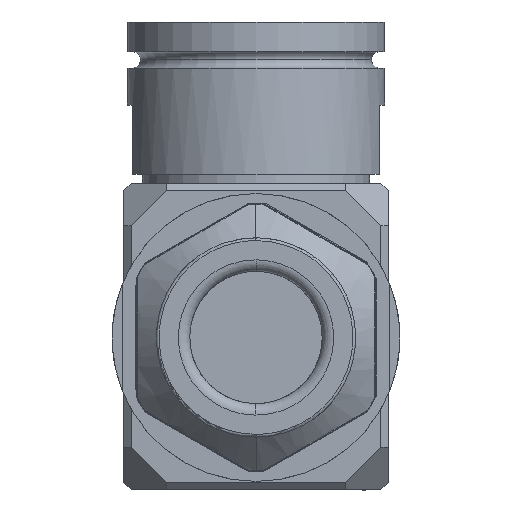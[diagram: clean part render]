
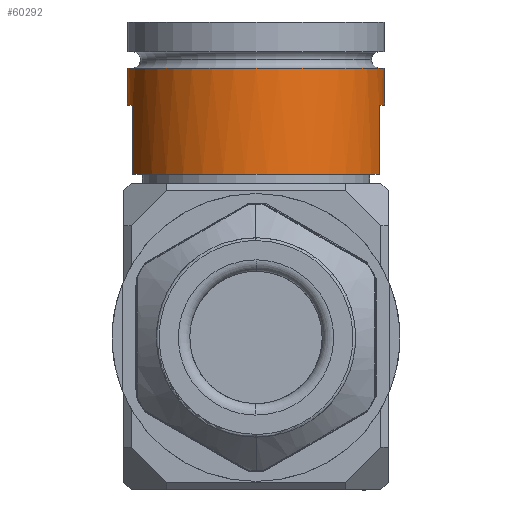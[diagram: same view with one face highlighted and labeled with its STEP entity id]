
A CAD part, front view. The second image highlights one B-rep face of the part: STEP entity #60292.
In plain terms, the highlighted cylindrical face has radius 17.691 mm (diameter 35.382 mm), a partial arc.
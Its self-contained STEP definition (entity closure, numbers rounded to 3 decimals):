
#1712 = EDGE_LOOP ( 'NONE', ( #43512, #16279, #62382, #34869, #41704, #60466, #18219, #65530 ) ) ;
#2400 = DIRECTION ( 'NONE',  ( 0., 0., -1. ) ) ;
#4203 = EDGE_CURVE ( 'NONE', #36306, #52486, #4255, .T. ) ;
#4255 = CIRCLE ( 'NONE', #55532, 17.691 ) ;
#4477 = EDGE_CURVE ( 'NONE', #43750, #52486, #10649, .T. ) ;
#4962 = DIRECTION ( 'NONE',  ( 0., 0., -1. ) ) ;
#8680 = DIRECTION ( 'NONE',  ( 1., 0., 0. ) ) ;
#9008 = DIRECTION ( 'NONE',  ( 0., 0., -1. ) ) ;
#10649 = LINE ( 'NONE', #26670, #28797 ) ;
#11644 = AXIS2_PLACEMENT_3D ( 'NONE', #29039, #48821, #8680 ) ;
#13103 = VECTOR ( 'NONE', #20476, 1000. ) ;
#13144 = CARTESIAN_POINT ( 'NONE',  ( -17.691, 0., -2.972 ) ) ;
#13699 = CYLINDRICAL_SURFACE ( 'NONE', #40318, 17.691 ) ;
#15450 = LINE ( 'NONE', #55629, #47369 ) ;
#15468 = DIRECTION ( 'NONE',  ( 0., 0., -1. ) ) ;
#16279 = ORIENTED_EDGE ( 'NONE', *, *, #4477, .T. ) ;
#16344 = DIRECTION ( 'NONE',  ( 0., 0., -1. ) ) ;
#17706 = EDGE_CURVE ( 'NONE', #39586, #53628, #56277, .T. ) ;
#17779 = CARTESIAN_POINT ( 'NONE',  ( 17.691, 0., -2.972 ) ) ;
#18219 = ORIENTED_EDGE ( 'NONE', *, *, #64023, .F. ) ;
#19155 = CARTESIAN_POINT ( 'NONE',  ( 16.993, -4.922, -2.972 ) ) ;
#20157 = CARTESIAN_POINT ( 'NONE',  ( 17.691, 0., 8.458 ) ) ;
#20464 = CARTESIAN_POINT ( 'NONE',  ( 17.691, 0., 2.108 ) ) ;
#20476 = DIRECTION ( 'NONE',  ( 0., 0., -1. ) ) ;
#21822 = CIRCLE ( 'NONE', #63504, 17.691 ) ;
#23754 = CARTESIAN_POINT ( 'NONE',  ( 0., 0., -2.972 ) ) ;
#24153 = LINE ( 'NONE', #19155, #30421 ) ;
#26201 = EDGE_CURVE ( 'NONE', #36306, #36825, #15450, .T. ) ;
#26670 = CARTESIAN_POINT ( 'NONE',  ( -17.691, 0., 8.458 ) ) ;
#28797 = VECTOR ( 'NONE', #16344, 1000. ) ;
#29039 = CARTESIAN_POINT ( 'NONE',  ( 0., 0., -2.972 ) ) ;
#29085 = EDGE_CURVE ( 'NONE', #39586, #43750, #21822, .T. ) ;
#29162 = CIRCLE ( 'NONE', #45251, 17.691 ) ;
#30421 = VECTOR ( 'NONE', #39518, 1000. ) ;
#33363 = CARTESIAN_POINT ( 'NONE',  ( 0., 0., -12.497 ) ) ;
#34869 = ORIENTED_EDGE ( 'NONE', *, *, #26201, .T. ) ;
#35369 = VERTEX_POINT ( 'NONE', #43703 ) ;
#36306 = VERTEX_POINT ( 'NONE', #53202 ) ;
#36811 = DIRECTION ( 'NONE',  ( 1., 0., 0. ) ) ;
#36825 = VERTEX_POINT ( 'NONE', #65609 ) ;
#39518 = DIRECTION ( 'NONE',  ( 0., 0., -1. ) ) ;
#39586 = VERTEX_POINT ( 'NONE', #20464 ) ;
#40318 = AXIS2_PLACEMENT_3D ( 'NONE', #64546, #9008, #58539 ) ;
#40858 = EDGE_CURVE ( 'NONE', #59834, #36825, #29162, .T. ) ;
#41704 = ORIENTED_EDGE ( 'NONE', *, *, #40858, .F. ) ;
#43512 = ORIENTED_EDGE ( 'NONE', *, *, #29085, .T. ) ;
#43703 = CARTESIAN_POINT ( 'NONE',  ( 16.993, -4.922, -2.972 ) ) ;
#43750 = VERTEX_POINT ( 'NONE', #61627 ) ;
#44121 = FACE_OUTER_BOUND ( 'NONE', #1712, .T. ) ;
#45251 = AXIS2_PLACEMENT_3D ( 'NONE', #33363, #4962, #60483 ) ;
#46550 = CARTESIAN_POINT ( 'NONE',  ( 0., 0., 2.108 ) ) ;
#47369 = VECTOR ( 'NONE', #65983, 1000. ) ;
#48521 = DIRECTION ( 'NONE',  ( -1., 0., 0. ) ) ;
#48821 = DIRECTION ( 'NONE',  ( 0., 0., -1. ) ) ;
#51657 = EDGE_CURVE ( 'NONE', #35369, #59834, #24153, .T. ) ;
#51786 = CARTESIAN_POINT ( 'NONE',  ( 16.993, -4.922, -12.497 ) ) ;
#52486 = VERTEX_POINT ( 'NONE', #13144 ) ;
#53202 = CARTESIAN_POINT ( 'NONE',  ( -16.993, -4.922, -2.972 ) ) ;
#53628 = VERTEX_POINT ( 'NONE', #17779 ) ;
#55532 = AXIS2_PLACEMENT_3D ( 'NONE', #23754, #2400, #48521 ) ;
#55629 = CARTESIAN_POINT ( 'NONE',  ( -16.993, -4.922, -2.972 ) ) ;
#56277 = LINE ( 'NONE', #20157, #13103 ) ;
#58539 = DIRECTION ( 'NONE',  ( 1., 0., 0. ) ) ;
#59834 = VERTEX_POINT ( 'NONE', #51786 ) ;
#60292 = ADVANCED_FACE ( 'NONE', ( #44121 ), #13699, .T. ) ;
#60466 = ORIENTED_EDGE ( 'NONE', *, *, #51657, .F. ) ;
#60483 = DIRECTION ( 'NONE',  ( 1., 0., 0. ) ) ;
#61627 = CARTESIAN_POINT ( 'NONE',  ( -17.691, 0., 2.108 ) ) ;
#61823 = CIRCLE ( 'NONE', #11644, 17.691 ) ;
#62382 = ORIENTED_EDGE ( 'NONE', *, *, #4203, .F. ) ;
#63504 = AXIS2_PLACEMENT_3D ( 'NONE', #46550, #15468, #36811 ) ;
#64023 = EDGE_CURVE ( 'NONE', #53628, #35369, #61823, .T. ) ;
#64546 = CARTESIAN_POINT ( 'NONE',  ( 0., 0., 8.458 ) ) ;
#65530 = ORIENTED_EDGE ( 'NONE', *, *, #17706, .F. ) ;
#65609 = CARTESIAN_POINT ( 'NONE',  ( -16.993, -4.922, -12.497 ) ) ;
#65983 = DIRECTION ( 'NONE',  ( 0., 0., -1. ) ) ;
